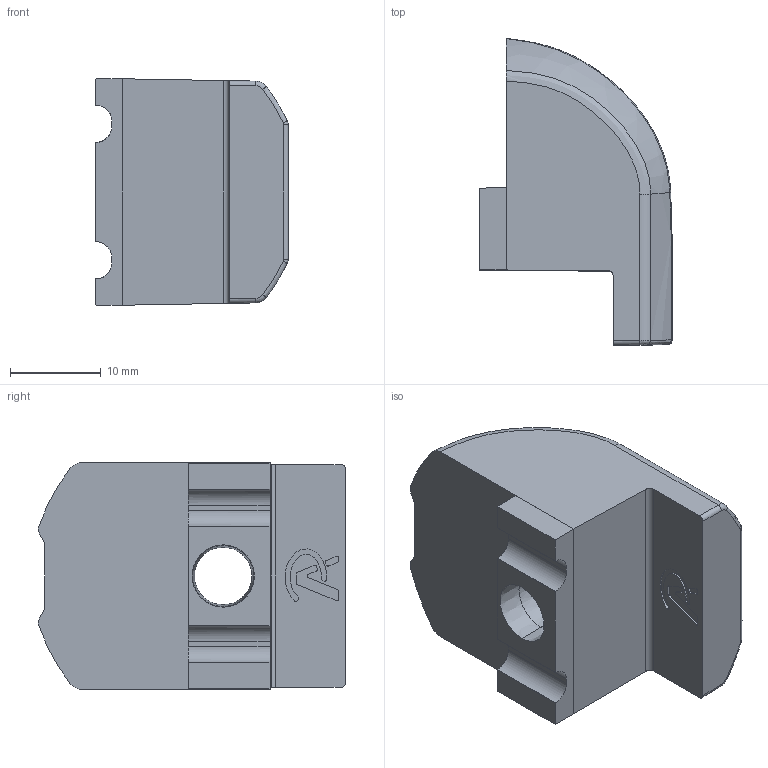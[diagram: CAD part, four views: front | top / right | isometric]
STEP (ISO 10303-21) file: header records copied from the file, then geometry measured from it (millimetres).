
FILE_DESCRIPTION (( 'STEP AP214' ), '1' );
FILE_NAME ('013.100.069.STEP', '2023-01-13T13:55:33', ( '' ), ( '' ), 'SwSTEP 2.0', 'SolidWorks 2021', '' );
FILE_SCHEMA (( 'AUTOMOTIVE_DESIGN' ));
Length unit declared in the file: millimetre
Products named in the file (1): 013.100.069
Bounding box: 21.16 x 33.78 x 24.9 mm (x, y, z)
Volume: 9553.8 mm3; surface area: 4009.3 mm2
Topology: 2 solids, 2 shells, 102 faces, 266 edges, 172 vertices
Faces by surface type: plane 42, bspline 30, cylinder 26, cone 4
Entity records: 5581 total; most frequent: CARTESIAN_POINT 3262, ORIENTED_EDGE 532, DIRECTION 385, EDGE_CURVE 266, VERTEX_POINT 172, VECTOR 131, LINE 131, AXIS2_PLACEMENT_3D 127
